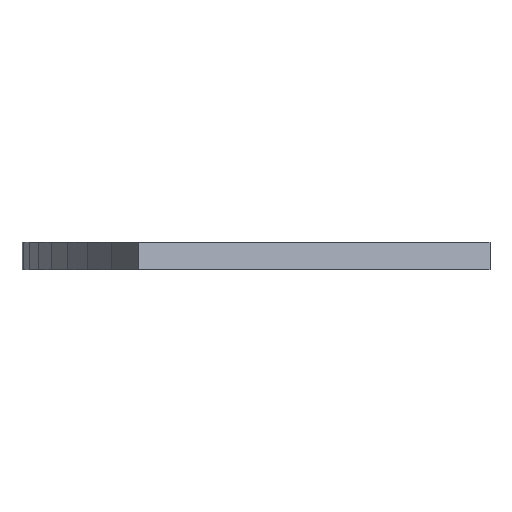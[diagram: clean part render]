
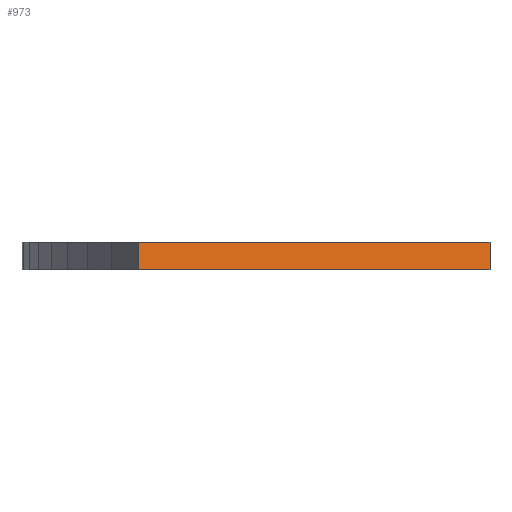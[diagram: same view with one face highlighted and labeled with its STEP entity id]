
A CAD part, left-side view. The second image highlights one B-rep face of the part: STEP entity #973.
In plain terms, the highlighted planar face has unit normal (-0.94, -0.342, 0).
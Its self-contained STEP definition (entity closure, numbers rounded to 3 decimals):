
#72 = PLANE('',#73);
#73 = AXIS2_PLACEMENT_3D('',#74,#75,#76);
#74 = CARTESIAN_POINT('',(-505.829,278.773,267.4));
#75 = DIRECTION('',(0.,0.,1.));
#76 = DIRECTION('',(1.,0.,-0.));
#126 = PLANE('',#127);
#127 = AXIS2_PLACEMENT_3D('',#128,#129,#130);
#128 = CARTESIAN_POINT('',(-505.829,278.773,265.4));
#129 = DIRECTION('',(0.,0.,1.));
#130 = DIRECTION('',(1.,0.,-0.));
#865 = PLANE('',#866);
#866 = AXIS2_PLACEMENT_3D('',#867,#868,#869);
#867 = CARTESIAN_POINT('',(-536.798,287.567,265.4));
#868 = DIRECTION('',(0.321,-0.947,0.));
#869 = DIRECTION('',(-0.947,-0.321,0.));
#903 = VERTEX_POINT('',#904);
#904 = CARTESIAN_POINT('',(-542.541,285.617,267.4));
#925 = EDGE_CURVE('',#926,#903,#928,.T.);
#926 = VERTEX_POINT('',#927);
#927 = CARTESIAN_POINT('',(-542.541,285.617,265.4));
#928 = SURFACE_CURVE('',#929,(#933,#940),.PCURVE_S1.);
#929 = LINE('',#930,#931);
#930 = CARTESIAN_POINT('',(-542.541,285.617,265.4));
#931 = VECTOR('',#932,1.);
#932 = DIRECTION('',(0.,0.,1.));
#933 = PCURVE('',#865,#934);
#934 = DEFINITIONAL_REPRESENTATION('',(#935),#939);
#935 = LINE('',#936,#937);
#936 = CARTESIAN_POINT('',(6.065,0.));
#937 = VECTOR('',#938,1.);
#938 = DIRECTION('',(0.,-1.));
#939 = ( GEOMETRIC_REPRESENTATION_CONTEXT(2) 
PARAMETRIC_REPRESENTATION_CONTEXT() REPRESENTATION_CONTEXT('2D SPACE',''
  ) );
#940 = PCURVE('',#941,#946);
#941 = PLANE('',#942);
#942 = AXIS2_PLACEMENT_3D('',#943,#944,#945);
#943 = CARTESIAN_POINT('',(-542.541,285.617,265.4));
#944 = DIRECTION('',(0.94,0.342,-0.));
#945 = DIRECTION('',(0.342,-0.94,0.));
#946 = DEFINITIONAL_REPRESENTATION('',(#947),#951);
#947 = LINE('',#948,#949);
#948 = CARTESIAN_POINT('',(0.,0.));
#949 = VECTOR('',#950,1.);
#950 = DIRECTION('',(0.,-1.));
#951 = ( GEOMETRIC_REPRESENTATION_CONTEXT(2) 
PARAMETRIC_REPRESENTATION_CONTEXT() REPRESENTATION_CONTEXT('2D SPACE',''
  ) );
#973 = ADVANCED_FACE('',(#974),#941,.F.);
#974 = FACE_BOUND('',#975,.F.);
#975 = EDGE_LOOP('',(#976,#977,#1000,#1028));
#976 = ORIENTED_EDGE('',*,*,#925,.T.);
#977 = ORIENTED_EDGE('',*,*,#978,.T.);
#978 = EDGE_CURVE('',#903,#979,#981,.T.);
#979 = VERTEX_POINT('',#980);
#980 = CARTESIAN_POINT('',(-533.306,260.246,267.4));
#981 = SURFACE_CURVE('',#982,(#986,#993),.PCURVE_S1.);
#982 = LINE('',#983,#984);
#983 = CARTESIAN_POINT('',(-542.541,285.617,267.4));
#984 = VECTOR('',#985,1.);
#985 = DIRECTION('',(0.342,-0.94,0.));
#986 = PCURVE('',#941,#987);
#987 = DEFINITIONAL_REPRESENTATION('',(#988),#992);
#988 = LINE('',#989,#990);
#989 = CARTESIAN_POINT('',(0.,-2.));
#990 = VECTOR('',#991,1.);
#991 = DIRECTION('',(1.,0.));
#992 = ( GEOMETRIC_REPRESENTATION_CONTEXT(2) 
PARAMETRIC_REPRESENTATION_CONTEXT() REPRESENTATION_CONTEXT('2D SPACE',''
  ) );
#993 = PCURVE('',#72,#994);
#994 = DEFINITIONAL_REPRESENTATION('',(#995),#999);
#995 = LINE('',#996,#997);
#996 = CARTESIAN_POINT('',(-36.712,6.845));
#997 = VECTOR('',#998,1.);
#998 = DIRECTION('',(0.342,-0.94));
#999 = ( GEOMETRIC_REPRESENTATION_CONTEXT(2) 
PARAMETRIC_REPRESENTATION_CONTEXT() REPRESENTATION_CONTEXT('2D SPACE',''
  ) );
#1000 = ORIENTED_EDGE('',*,*,#1001,.F.);
#1001 = EDGE_CURVE('',#1002,#979,#1004,.T.);
#1002 = VERTEX_POINT('',#1003);
#1003 = CARTESIAN_POINT('',(-533.306,260.246,265.4));
#1004 = SURFACE_CURVE('',#1005,(#1009,#1016),.PCURVE_S1.);
#1005 = LINE('',#1006,#1007);
#1006 = CARTESIAN_POINT('',(-533.306,260.246,265.4));
#1007 = VECTOR('',#1008,1.);
#1008 = DIRECTION('',(0.,0.,1.));
#1009 = PCURVE('',#941,#1010);
#1010 = DEFINITIONAL_REPRESENTATION('',(#1011),#1015);
#1011 = LINE('',#1012,#1013);
#1012 = CARTESIAN_POINT('',(27.,0.));
#1013 = VECTOR('',#1014,1.);
#1014 = DIRECTION('',(0.,-1.));
#1015 = ( GEOMETRIC_REPRESENTATION_CONTEXT(2) 
PARAMETRIC_REPRESENTATION_CONTEXT() REPRESENTATION_CONTEXT('2D SPACE',''
  ) );
#1016 = PCURVE('',#1017,#1022);
#1017 = PLANE('',#1018);
#1018 = AXIS2_PLACEMENT_3D('',#1019,#1020,#1021);
#1019 = CARTESIAN_POINT('',(-533.306,260.246,265.4));
#1020 = DIRECTION('',(-0.321,0.947,0.));
#1021 = DIRECTION('',(0.947,0.321,0.));
#1022 = DEFINITIONAL_REPRESENTATION('',(#1023),#1027);
#1023 = LINE('',#1024,#1025);
#1024 = CARTESIAN_POINT('',(0.,0.));
#1025 = VECTOR('',#1026,1.);
#1026 = DIRECTION('',(0.,-1.));
#1027 = ( GEOMETRIC_REPRESENTATION_CONTEXT(2) 
PARAMETRIC_REPRESENTATION_CONTEXT() REPRESENTATION_CONTEXT('2D SPACE',''
  ) );
#1028 = ORIENTED_EDGE('',*,*,#1029,.F.);
#1029 = EDGE_CURVE('',#926,#1002,#1030,.T.);
#1030 = SURFACE_CURVE('',#1031,(#1035,#1042),.PCURVE_S1.);
#1031 = LINE('',#1032,#1033);
#1032 = CARTESIAN_POINT('',(-542.541,285.617,265.4));
#1033 = VECTOR('',#1034,1.);
#1034 = DIRECTION('',(0.342,-0.94,0.));
#1035 = PCURVE('',#941,#1036);
#1036 = DEFINITIONAL_REPRESENTATION('',(#1037),#1041);
#1037 = LINE('',#1038,#1039);
#1038 = CARTESIAN_POINT('',(0.,0.));
#1039 = VECTOR('',#1040,1.);
#1040 = DIRECTION('',(1.,0.));
#1041 = ( GEOMETRIC_REPRESENTATION_CONTEXT(2) 
PARAMETRIC_REPRESENTATION_CONTEXT() REPRESENTATION_CONTEXT('2D SPACE',''
  ) );
#1042 = PCURVE('',#126,#1043);
#1043 = DEFINITIONAL_REPRESENTATION('',(#1044),#1048);
#1044 = LINE('',#1045,#1046);
#1045 = CARTESIAN_POINT('',(-36.712,6.845));
#1046 = VECTOR('',#1047,1.);
#1047 = DIRECTION('',(0.342,-0.94));
#1048 = ( GEOMETRIC_REPRESENTATION_CONTEXT(2) 
PARAMETRIC_REPRESENTATION_CONTEXT() REPRESENTATION_CONTEXT('2D SPACE',''
  ) );
